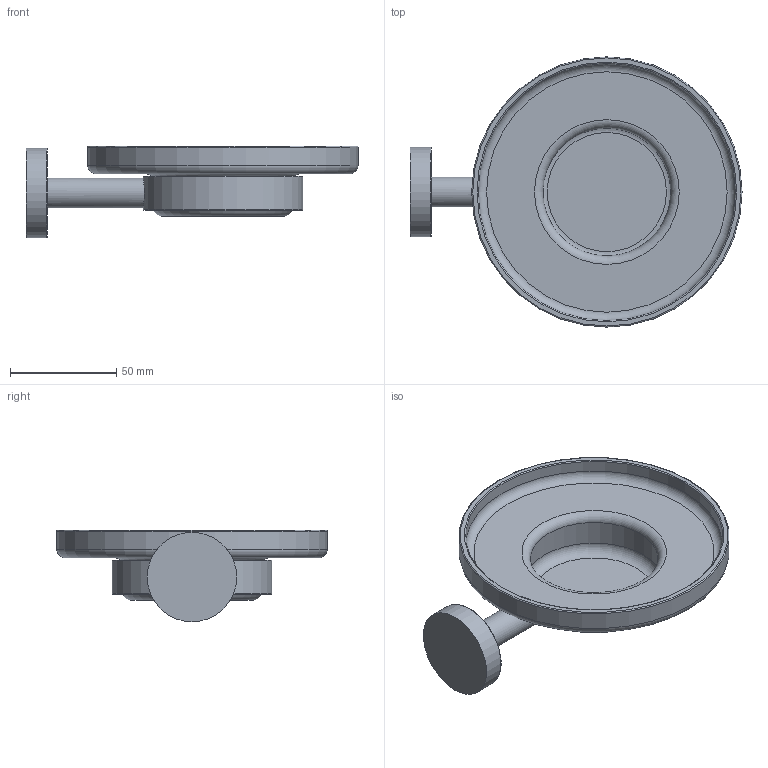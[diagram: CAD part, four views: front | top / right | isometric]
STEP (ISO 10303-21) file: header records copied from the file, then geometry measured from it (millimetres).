
FILE_DESCRIPTION(('STEP AP242'), '1');
FILE_NAME('81CR021BI', '', ('UNSPECIFIED'), ('UNSPECIFIED'), 'ASCON STEP Converter 1.6', 'ASCON Math Kernel', '');
FILE_SCHEMA(('AP242_MANAGED_MODEL_BASED_3D_ENGINEERING_MIM_LF { 1 0 10303 442 1 1 4 }'));
Length unit declared in the file: millimetre
Bounding box: 156 x 127 x 43 mm (x, y, z)
Volume: 141719.4 mm3; surface area: 48201.1 mm2
Topology: 2 solids, 2 shells, 28 faces, 46 edges, 27 vertices
Faces by surface type: torus 12, plane 8, cylinder 7, revolution 1
Full cylindrical faces by diameter (mm): 14 x1, 42 x1, 66 x1, 68 x1, 75 x1, 121 x1, 127 x1
Entity records: 897 total; most frequent: CARTESIAN_POINT 161, DIRECTION 109, AXIS2_PLACEMENT_3D 54, EDGE_LOOP 54, ORIENTED_EDGE 54, FACE_OUTER_BOUND 39, COLOUR_RGB 30, FILL_AREA_STYLE_COLOUR 30
